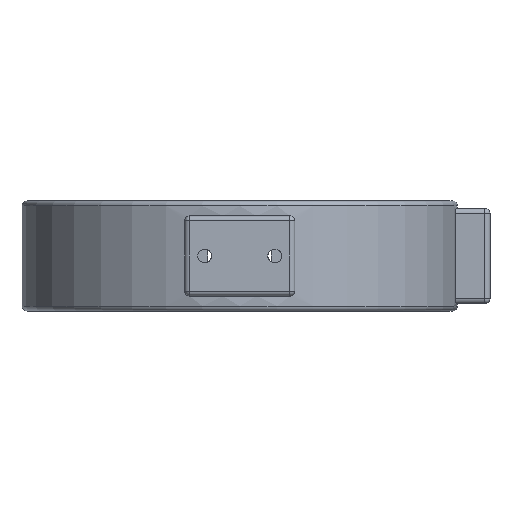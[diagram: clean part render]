
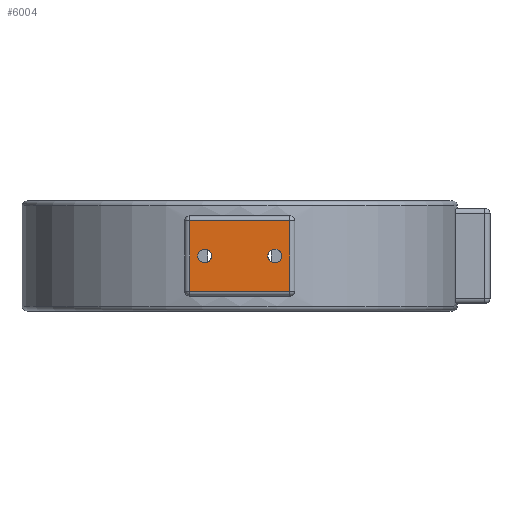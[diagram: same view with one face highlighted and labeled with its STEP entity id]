
A CAD part, front view. The second image highlights one B-rep face of the part: STEP entity #6004.
In plain terms, the highlighted planar face has unit normal (0, -1, 0).
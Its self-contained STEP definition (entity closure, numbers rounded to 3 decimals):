
#2167 = CYLINDRICAL_SURFACE('',#2168,2.);
#2168 = AXIS2_PLACEMENT_3D('',#2169,#2170,#2171);
#2169 = CARTESIAN_POINT('',(-22.,-94.,252.));
#2170 = DIRECTION('',(1.,0.,0.));
#2171 = DIRECTION('',(0.,-1.,0.));
#2275 = CYLINDRICAL_SURFACE('',#2276,2.);
#2276 = AXIS2_PLACEMENT_3D('',#2277,#2278,#2279);
#2277 = CARTESIAN_POINT('',(20.,-94.,222.));
#2278 = DIRECTION('',(0.,0.,1.));
#2279 = DIRECTION('',(1.,0.,-0.));
#2405 = CYLINDRICAL_SURFACE('',#2406,2.);
#2406 = AXIS2_PLACEMENT_3D('',#2407,#2408,#2409);
#2407 = CARTESIAN_POINT('',(-22.,-94.,224.));
#2408 = DIRECTION('',(1.,0.,0.));
#2409 = DIRECTION('',(0.,-1.,0.));
#2491 = CYLINDRICAL_SURFACE('',#2492,2.);
#2492 = AXIS2_PLACEMENT_3D('',#2493,#2494,#2495);
#2493 = CARTESIAN_POINT('',(-20.,-94.,222.));
#2494 = DIRECTION('',(0.,0.,1.));
#2495 = DIRECTION('',(-1.,-0.,0.));
#4081 = CYLINDRICAL_SURFACE('',#4082,2.75);
#4082 = AXIS2_PLACEMENT_3D('',#4083,#4084,#4085);
#4083 = CARTESIAN_POINT('',(-14.,-105.,238.));
#4084 = DIRECTION('',(0.,1.,0.));
#4085 = DIRECTION('',(0.,-0.,1.));
#4206 = CYLINDRICAL_SURFACE('',#4207,2.75);
#4207 = AXIS2_PLACEMENT_3D('',#4208,#4209,#4210);
#4208 = CARTESIAN_POINT('',(14.,-105.,238.));
#4209 = DIRECTION('',(0.,1.,0.));
#4210 = DIRECTION('',(0.,-0.,1.));
#4471 = VERTEX_POINT('',#4472);
#4472 = CARTESIAN_POINT('',(-20.,-96.,252.));
#4522 = VERTEX_POINT('',#4523);
#4523 = CARTESIAN_POINT('',(20.,-96.,252.));
#4545 = EDGE_CURVE('',#4471,#4522,#4546,.T.);
#4546 = SURFACE_CURVE('',#4547,(#4551,#4558),.PCURVE_S1.);
#4547 = LINE('',#4548,#4549);
#4548 = CARTESIAN_POINT('',(-22.,-96.,252.));
#4549 = VECTOR('',#4550,1.);
#4550 = DIRECTION('',(1.,0.,0.));
#4551 = PCURVE('',#2167,#4552);
#4552 = DEFINITIONAL_REPRESENTATION('',(#4553),#4557);
#4553 = LINE('',#4554,#4555);
#4554 = CARTESIAN_POINT('',(-0.,0.));
#4555 = VECTOR('',#4556,1.);
#4556 = DIRECTION('',(-0.,1.));
#4557 = ( GEOMETRIC_REPRESENTATION_CONTEXT(2) 
PARAMETRIC_REPRESENTATION_CONTEXT() REPRESENTATION_CONTEXT('2D SPACE',''
  ) );
#4558 = PCURVE('',#4559,#4564);
#4559 = PLANE('',#4560);
#4560 = AXIS2_PLACEMENT_3D('',#4561,#4562,#4563);
#4561 = CARTESIAN_POINT('',(-22.,-96.,222.));
#4562 = DIRECTION('',(0.,1.,0.));
#4563 = DIRECTION('',(0.,0.,1.));
#4564 = DEFINITIONAL_REPRESENTATION('',(#4565),#4569);
#4565 = LINE('',#4566,#4567);
#4566 = CARTESIAN_POINT('',(30.,0.));
#4567 = VECTOR('',#4568,1.);
#4568 = DIRECTION('',(0.,1.));
#4569 = ( GEOMETRIC_REPRESENTATION_CONTEXT(2) 
PARAMETRIC_REPRESENTATION_CONTEXT() REPRESENTATION_CONTEXT('2D SPACE',''
  ) );
#4603 = VERTEX_POINT('',#4604);
#4604 = CARTESIAN_POINT('',(20.,-96.,224.));
#4626 = EDGE_CURVE('',#4603,#4522,#4627,.T.);
#4627 = SURFACE_CURVE('',#4628,(#4632,#4639),.PCURVE_S1.);
#4628 = LINE('',#4629,#4630);
#4629 = CARTESIAN_POINT('',(20.,-96.,222.));
#4630 = VECTOR('',#4631,1.);
#4631 = DIRECTION('',(0.,0.,1.));
#4632 = PCURVE('',#2275,#4633);
#4633 = DEFINITIONAL_REPRESENTATION('',(#4634),#4638);
#4634 = LINE('',#4635,#4636);
#4635 = CARTESIAN_POINT('',(-1.571,0.));
#4636 = VECTOR('',#4637,1.);
#4637 = DIRECTION('',(-0.,1.));
#4638 = ( GEOMETRIC_REPRESENTATION_CONTEXT(2) 
PARAMETRIC_REPRESENTATION_CONTEXT() REPRESENTATION_CONTEXT('2D SPACE',''
  ) );
#4639 = PCURVE('',#4559,#4640);
#4640 = DEFINITIONAL_REPRESENTATION('',(#4641),#4645);
#4641 = LINE('',#4642,#4643);
#4642 = CARTESIAN_POINT('',(0.,42.));
#4643 = VECTOR('',#4644,1.);
#4644 = DIRECTION('',(1.,0.));
#4645 = ( GEOMETRIC_REPRESENTATION_CONTEXT(2) 
PARAMETRIC_REPRESENTATION_CONTEXT() REPRESENTATION_CONTEXT('2D SPACE',''
  ) );
#4679 = VERTEX_POINT('',#4680);
#4680 = CARTESIAN_POINT('',(-20.,-96.,224.));
#4704 = EDGE_CURVE('',#4679,#4603,#4705,.T.);
#4705 = SURFACE_CURVE('',#4706,(#4710,#4717),.PCURVE_S1.);
#4706 = LINE('',#4707,#4708);
#4707 = CARTESIAN_POINT('',(-22.,-96.,224.));
#4708 = VECTOR('',#4709,1.);
#4709 = DIRECTION('',(1.,0.,0.));
#4710 = PCURVE('',#2405,#4711);
#4711 = DEFINITIONAL_REPRESENTATION('',(#4712),#4716);
#4712 = LINE('',#4713,#4714);
#4713 = CARTESIAN_POINT('',(0.,0.));
#4714 = VECTOR('',#4715,1.);
#4715 = DIRECTION('',(0.,1.));
#4716 = ( GEOMETRIC_REPRESENTATION_CONTEXT(2) 
PARAMETRIC_REPRESENTATION_CONTEXT() REPRESENTATION_CONTEXT('2D SPACE',''
  ) );
#4717 = PCURVE('',#4559,#4718);
#4718 = DEFINITIONAL_REPRESENTATION('',(#4719),#4723);
#4719 = LINE('',#4720,#4721);
#4720 = CARTESIAN_POINT('',(2.,0.));
#4721 = VECTOR('',#4722,1.);
#4722 = DIRECTION('',(0.,1.));
#4723 = ( GEOMETRIC_REPRESENTATION_CONTEXT(2) 
PARAMETRIC_REPRESENTATION_CONTEXT() REPRESENTATION_CONTEXT('2D SPACE',''
  ) );
#4757 = EDGE_CURVE('',#4679,#4471,#4758,.T.);
#4758 = SURFACE_CURVE('',#4759,(#4763,#4770),.PCURVE_S1.);
#4759 = LINE('',#4760,#4761);
#4760 = CARTESIAN_POINT('',(-20.,-96.,222.));
#4761 = VECTOR('',#4762,1.);
#4762 = DIRECTION('',(0.,0.,1.));
#4763 = PCURVE('',#2491,#4764);
#4764 = DEFINITIONAL_REPRESENTATION('',(#4765),#4769);
#4765 = LINE('',#4766,#4767);
#4766 = CARTESIAN_POINT('',(1.571,0.));
#4767 = VECTOR('',#4768,1.);
#4768 = DIRECTION('',(0.,1.));
#4769 = ( GEOMETRIC_REPRESENTATION_CONTEXT(2) 
PARAMETRIC_REPRESENTATION_CONTEXT() REPRESENTATION_CONTEXT('2D SPACE',''
  ) );
#4770 = PCURVE('',#4559,#4771);
#4771 = DEFINITIONAL_REPRESENTATION('',(#4772),#4776);
#4772 = LINE('',#4773,#4774);
#4773 = CARTESIAN_POINT('',(0.,2.));
#4774 = VECTOR('',#4775,1.);
#4775 = DIRECTION('',(1.,0.));
#4776 = ( GEOMETRIC_REPRESENTATION_CONTEXT(2) 
PARAMETRIC_REPRESENTATION_CONTEXT() REPRESENTATION_CONTEXT('2D SPACE',''
  ) );
#5755 = VERTEX_POINT('',#5756);
#5756 = CARTESIAN_POINT('',(-14.,-96.,240.75));
#5825 = EDGE_CURVE('',#5755,#5755,#5826,.T.);
#5826 = SURFACE_CURVE('',#5827,(#5832,#5839),.PCURVE_S1.);
#5827 = CIRCLE('',#5828,2.75);
#5828 = AXIS2_PLACEMENT_3D('',#5829,#5830,#5831);
#5829 = CARTESIAN_POINT('',(-14.,-96.,238.));
#5830 = DIRECTION('',(0.,1.,0.));
#5831 = DIRECTION('',(0.,-0.,1.));
#5832 = PCURVE('',#4081,#5833);
#5833 = DEFINITIONAL_REPRESENTATION('',(#5834),#5838);
#5834 = LINE('',#5835,#5836);
#5835 = CARTESIAN_POINT('',(0.,9.));
#5836 = VECTOR('',#5837,1.);
#5837 = DIRECTION('',(1.,0.));
#5838 = ( GEOMETRIC_REPRESENTATION_CONTEXT(2) 
PARAMETRIC_REPRESENTATION_CONTEXT() REPRESENTATION_CONTEXT('2D SPACE',''
  ) );
#5839 = PCURVE('',#4559,#5840);
#5840 = DEFINITIONAL_REPRESENTATION('',(#5841),#5845);
#5841 = CIRCLE('',#5842,2.75);
#5842 = AXIS2_PLACEMENT_2D('',#5843,#5844);
#5843 = CARTESIAN_POINT('',(16.,8.));
#5844 = DIRECTION('',(1.,0.));
#5845 = ( GEOMETRIC_REPRESENTATION_CONTEXT(2) 
PARAMETRIC_REPRESENTATION_CONTEXT() REPRESENTATION_CONTEXT('2D SPACE',''
  ) );
#5857 = VERTEX_POINT('',#5858);
#5858 = CARTESIAN_POINT('',(14.,-96.,240.75));
#5927 = EDGE_CURVE('',#5857,#5857,#5928,.T.);
#5928 = SURFACE_CURVE('',#5929,(#5934,#5941),.PCURVE_S1.);
#5929 = CIRCLE('',#5930,2.75);
#5930 = AXIS2_PLACEMENT_3D('',#5931,#5932,#5933);
#5931 = CARTESIAN_POINT('',(14.,-96.,238.));
#5932 = DIRECTION('',(0.,1.,0.));
#5933 = DIRECTION('',(0.,-0.,1.));
#5934 = PCURVE('',#4206,#5935);
#5935 = DEFINITIONAL_REPRESENTATION('',(#5936),#5940);
#5936 = LINE('',#5937,#5938);
#5937 = CARTESIAN_POINT('',(0.,9.));
#5938 = VECTOR('',#5939,1.);
#5939 = DIRECTION('',(1.,0.));
#5940 = ( GEOMETRIC_REPRESENTATION_CONTEXT(2) 
PARAMETRIC_REPRESENTATION_CONTEXT() REPRESENTATION_CONTEXT('2D SPACE',''
  ) );
#5941 = PCURVE('',#4559,#5942);
#5942 = DEFINITIONAL_REPRESENTATION('',(#5943),#5947);
#5943 = CIRCLE('',#5944,2.75);
#5944 = AXIS2_PLACEMENT_2D('',#5945,#5946);
#5945 = CARTESIAN_POINT('',(16.,36.));
#5946 = DIRECTION('',(1.,0.));
#5947 = ( GEOMETRIC_REPRESENTATION_CONTEXT(2) 
PARAMETRIC_REPRESENTATION_CONTEXT() REPRESENTATION_CONTEXT('2D SPACE',''
  ) );
#6004 = ADVANCED_FACE('',(#6005,#6011,#6014),#4559,.F.);
#6005 = FACE_BOUND('',#6006,.F.);
#6006 = EDGE_LOOP('',(#6007,#6008,#6009,#6010));
#6007 = ORIENTED_EDGE('',*,*,#4757,.T.);
#6008 = ORIENTED_EDGE('',*,*,#4545,.T.);
#6009 = ORIENTED_EDGE('',*,*,#4626,.F.);
#6010 = ORIENTED_EDGE('',*,*,#4704,.F.);
#6011 = FACE_BOUND('',#6012,.F.);
#6012 = EDGE_LOOP('',(#6013));
#6013 = ORIENTED_EDGE('',*,*,#5825,.F.);
#6014 = FACE_BOUND('',#6015,.F.);
#6015 = EDGE_LOOP('',(#6016));
#6016 = ORIENTED_EDGE('',*,*,#5927,.F.);
